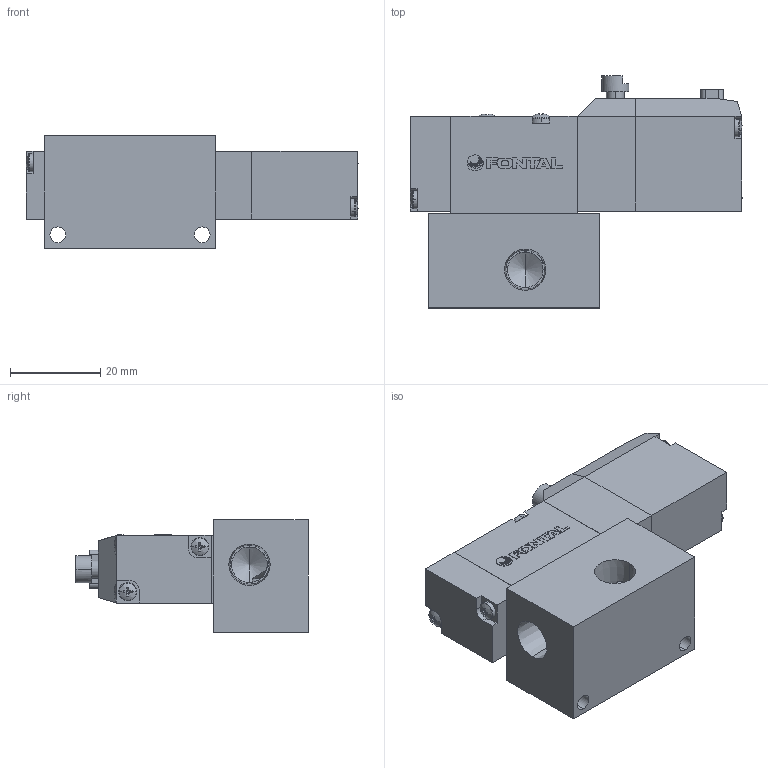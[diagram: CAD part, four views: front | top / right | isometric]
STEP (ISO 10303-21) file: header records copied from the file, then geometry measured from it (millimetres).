
FILE_DESCRIPTION (( 'STEP AP203' ), '1' );
FILE_NAME ('PCL245#-01-#-L-#.STEP', '2016-02-04T03:47:45', ( 'Sam Lin' ), ( '' ), 'SwSTEP 2.0', 'SolidWorks 2013', '' );
FILE_SCHEMA (( 'CONFIG_CONTROL_DESIGN' ));
Length unit declared in the file: metre
Products named in the file (10): ISO 7045 - M2.5 x 25; PC5-01-1; PC5-5-PCL･ﾎ; 手動鈕; PC5-2; PCL245#-01-#-L-#; ISO 7045 - M2 x 10; PC5-3; PC-MARK; PC5-4
Assembly tree (13 placements, depth 2):
  PCL245#-01-#-L-#
    PC5-2
    ISO 7045 - M2 x 10  x4
    PC5-3
    PC-MARK
    PC5-4
    ISO 7045 - M2.5 x 25  x2
    PC5-01-1
    PC5-5-PCL･ﾎ
    手動鈕
Bounding box: 73.64 x 51.5 x 25 mm (x, y, z)
Volume: 40468.3 mm3; surface area: 17136.9 mm2
Topology: 19 solids, 19 shells, 504 faces, 1241 edges, 768 vertices
Faces by surface type: plane 271, cylinder 101, cone 88, bspline 44
Entity records: 11428 total; most frequent: CARTESIAN_POINT 2367, ORIENTED_EDGE 1634, DIRECTION 1632, EDGE_CURVE 817, AXIS2_PLACEMENT_3D 577, VERTEX_POINT 528, VECTOR 478, LINE 478
